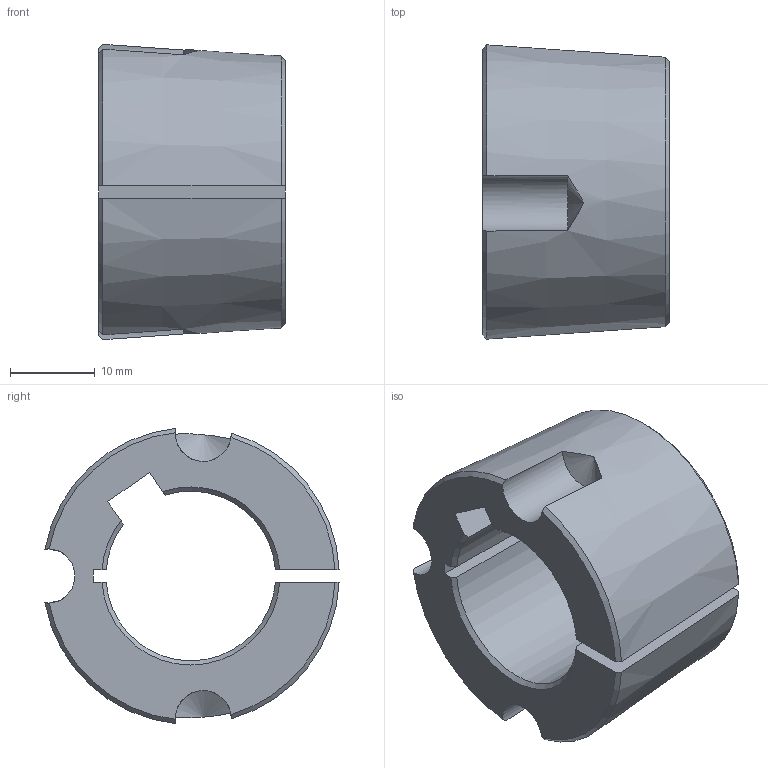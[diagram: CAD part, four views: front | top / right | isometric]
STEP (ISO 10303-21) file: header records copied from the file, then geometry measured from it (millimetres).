
FILE_DESCRIPTION(/* description */ (''),/* implementation_level */ '2;1');
FILE_NAME(/* name */ 'C:\Users\stagistaCAD\Desktop\Nuova cartella\29100820.stp',/* time_stamp */ '2018-06-27T10:47:49+02:00',/* author */ ('stagistacad'),/* organization */ (''),/* preprocessor_version */ 'ST-DEVELOPER v15.6',/* originating_system */ 'Autodesk Inventor 2015',/* authorisation */ '');
FILE_SCHEMA (('AUTOMOTIVE_DESIGN { 1 0 10303 214 3 1 1 }'));
Length unit declared in the file: millimetre
Products named in the file (1): 29100820
Bounding box: 22 x 34.69 x 34.82 mm (x, y, z)
Volume: 11113.4 mm3; surface area: 5230.2 mm2
Topology: 1 solids, 1 shells, 34 faces, 96 edges, 64 vertices
Faces by surface type: cone 16, plane 10, cylinder 8
Entity records: 1192 total; most frequent: CARTESIAN_POINT 323, ORIENTED_EDGE 192, DIRECTION 170, EDGE_CURVE 96, AXIS2_PLACEMENT_3D 69, VERTEX_POINT 64, FACE_OUTER_BOUND 34, EDGE_LOOP 34
